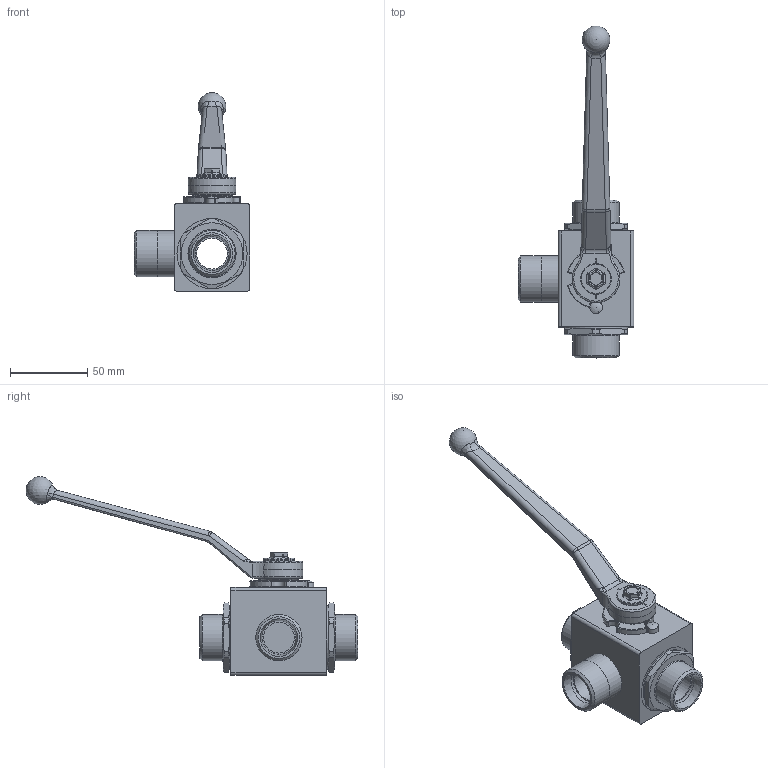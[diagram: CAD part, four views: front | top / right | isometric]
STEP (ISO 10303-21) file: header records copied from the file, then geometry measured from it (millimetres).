
FILE_DESCRIPTION( ( 'Unknown' ), '1' );
FILE_NAME( 'H:/PISTER/3D-MODELLE/BK3 stp/BK3 DN20 22L.stp', 'Unknown', ( 'Unknown' ), ( 'Unknown' ), 'PSStep 14.0', 'Unknown', ' ' );
FILE_SCHEMA( ( 'AUTOMOTIVE_DESIGN { 1 0 10303 214 1 1 1 1 }' ) );
Length unit declared in the file: millimetre
Products named in the file (11): Assem1; 10-025-001; 06-020-146-oa7; 09-14-001; 58-28740-13-oa8; Griff_SW14; 58-0933-147; 04-020-101-oa9; 04-020-101-oa10; 04-020-054-oa11; 01-020-025-oa12
Assembly tree (10 placements, depth 2):
  Assem1
    10-025-001
    06-020-146-oa7
    09-14-001
    58-28740-13-oa8
    Griff_SW14
    58-0933-147
    04-020-101-oa9
    04-020-101-oa10
    04-020-054-oa11
    01-020-025-oa12
Bounding box: 75 x 215.13 x 128.9 mm (x, y, z)
Volume: 79674.4 mm3; surface area: 61011.4 mm2
Topology: 10 solids, 10 shells, 380 faces, 942 edges, 576 vertices
Faces by surface type: cylinder 131, plane 125, torus 42, bspline 36, cone 32, sphere 14
Full cylindrical faces by diameter (mm): 5 x1, 6 x1, 6.5 x1, 7.98 x1, 20 x6, 20.2 x1, 22 x3, 25 x1, 30 x5, 38.3 x2, 41 x2, 45.5 x2
Entity records: 15556 total; most frequent: CARTESIAN_POINT 3891, DIRECTION 1797, ORIENTED_EDGE 1686, EDGE_CURVE 843, AXIS2_PLACEMENT_3D 739, VERTEX_POINT 550, EDGE_LOOP 466, FACE_OUTER_BOUND 417
